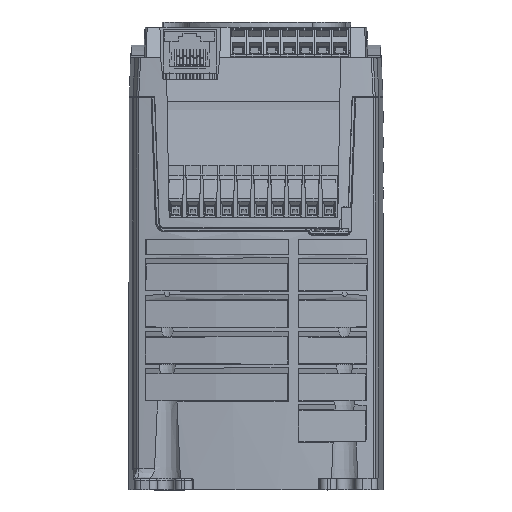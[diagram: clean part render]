
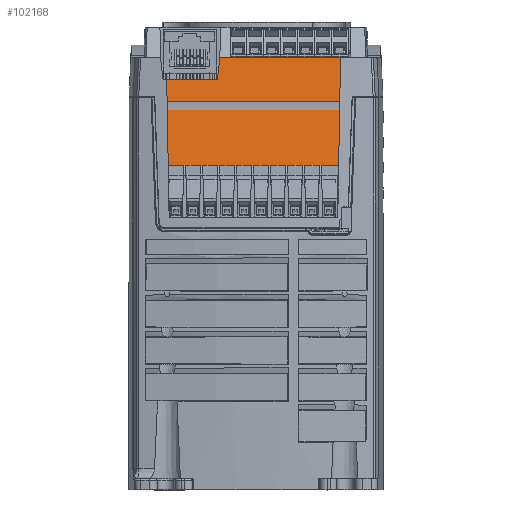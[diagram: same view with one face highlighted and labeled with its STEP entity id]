
A CAD part, front view. The second image highlights one B-rep face of the part: STEP entity #102168.
In plain terms, the highlighted planar face has unit normal (0, -0.99, 0.139).
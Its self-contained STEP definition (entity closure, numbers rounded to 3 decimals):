
#98289=DIRECTION('',(-0.017,0.139,0.99));
#98290=VECTOR('',#98289,25.35);
#98291=CARTESIAN_POINT('',(-25.846,-55.951,95.7));
#98292=LINE('',#98291,#98290);
#98293=DIRECTION('',(1.,0.,0.));
#98294=VECTOR('',#98293,14.914);
#98295=CARTESIAN_POINT('',(-26.284,-52.424,120.8));
#98296=LINE('',#98295,#98294);
#98297=DIRECTION('',(0.114,0.138,0.984));
#98298=VECTOR('',#98297,6.607);
#98299=CARTESIAN_POINT('',(-11.37,-52.424,120.8));
#98300=LINE('',#98299,#98298);
#98301=DIRECTION('',(1.,0.,0.));
#98302=VECTOR('',#98301,35.537);
#98303=CARTESIAN_POINT('',(-10.62,-51.51,127.3));
#98304=LINE('',#98303,#98302);
#98305=DIRECTION('',(-0.017,-0.139,-0.99));
#98306=VECTOR('',#98305,31.915);
#98307=CARTESIAN_POINT('',(24.917,-51.51,127.3));
#98308=LINE('',#98307,#98306);
#98309=DIRECTION('',(-1.,0.,0.));
#98310=VECTOR('',#98309,50.212);
#98311=CARTESIAN_POINT('',(24.366,-55.951,95.7));
#98312=LINE('',#98311,#98310);
#100990=CARTESIAN_POINT('',(-25.846,-55.951,95.7));
#100991=VERTEX_POINT('',#100990);
#100992=CARTESIAN_POINT('',(24.366,-55.951,95.7));
#100993=VERTEX_POINT('',#100992);
#100994=CARTESIAN_POINT('',(24.917,-51.51,127.3));
#100995=VERTEX_POINT('',#100994);
#101069=CARTESIAN_POINT('',(-26.284,-52.424,120.8));
#101070=VERTEX_POINT('',#101069);
#101077=CARTESIAN_POINT('',(-11.37,-52.424,120.8));
#101078=VERTEX_POINT('',#101077);
#101317=CARTESIAN_POINT('',(-10.62,-51.51,127.3));
#101318=VERTEX_POINT('',#101317);
#102152=CARTESIAN_POINT('',(-0.683,-53.731,111.5));
#102153=DIRECTION('',(0.,0.99,-0.139));
#102154=DIRECTION('',(1.,0.,0.));
#102155=AXIS2_PLACEMENT_3D('',#102152,#102153,#102154);
#102156=PLANE('',#102155);
#102157=ORIENTED_EDGE('',*,*,#101855,.T.);
#102159=ORIENTED_EDGE('',*,*,#102158,.T.);
#102161=ORIENTED_EDGE('',*,*,#102160,.T.);
#102163=ORIENTED_EDGE('',*,*,#102162,.T.);
#102164=ORIENTED_EDGE('',*,*,#102144,.T.);
#102165=ORIENTED_EDGE('',*,*,#102054,.T.);
#102166=EDGE_LOOP('',(#102157,#102159,#102161,#102163,#102164,#102165));
#102167=FACE_OUTER_BOUND('',#102166,.F.);
#102168=ADVANCED_FACE('',(#102167),#102156,.F.);
#101855=EDGE_CURVE('',#100991,#101070,#98292,.T.);
#102054=EDGE_CURVE('',#100993,#100991,#98312,.T.);
#102144=EDGE_CURVE('',#100995,#100993,#98308,.T.);
#102158=EDGE_CURVE('',#101070,#101078,#98296,.T.);
#102160=EDGE_CURVE('',#101078,#101318,#98300,.T.);
#102162=EDGE_CURVE('',#101318,#100995,#98304,.T.);
